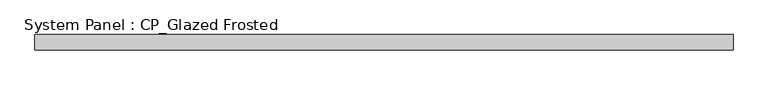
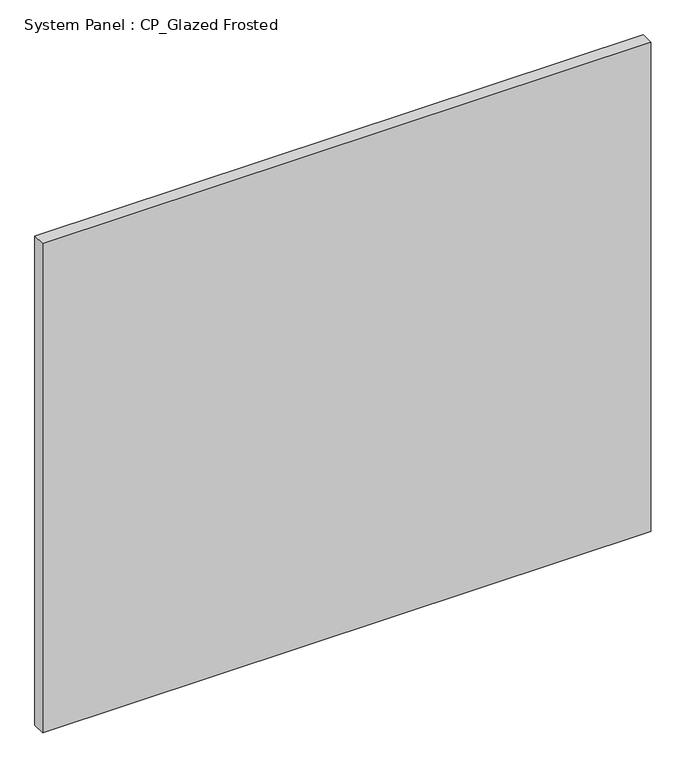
"""IFC4 building model written with IfcOpenShell, lengths in millimetres: plate geometry, System Panel : CP_Glazed Frosted."""

from ifc_helpers import new_model, si_unit, origin, origin_with_axes, place, context, project, spatial, polyline, outline, extrude, source, transform, mapped, element, save


def system_panel_cp_glazed_frosted_c9dce0ef(model_context):
    return source(origin(), model_context, "Body", "SweptSolid", [
        extrude(outline(polyline([(583.803125, 19.05), (-583.803125, 19.05), (-583.803125, 44.45), (583.803125, 44.45), (583.803125, 19.05)])), origin_with_axes(), (0.0, 0.0, 1.0), 992.98125),
    ])


if __name__ == "__main__":
    model = new_model("IFC4")
    model_context = context("Model", 3, world=origin())
    ifc_project = project(units=[si_unit("LENGTHUNIT", "METRE", prefix="MILLI")], contexts=[model_context])
    site = spatial("IfcSite", under=ifc_project)
    building = spatial("IfcBuilding", under=site)
    placement = place(None, origin())
    system_panel_cp_glazed_frosted_shape = system_panel_cp_glazed_frosted_c9dce0ef(model_context)
    element("IfcPlate", 1, ObjectType="System Panel : CP_Glazed Frosted", at=placement, inside=building, context=model_context, shape_type="MappedRepresentation", body=[
        mapped(system_panel_cp_glazed_frosted_shape, transform((0.0, 0.0, 0.0), x_axis=(1.0, 0.0, 0.0), y_axis=(0.0, 1.0, 0.0), z_axis=(0.0, 0.0, 1.0))),
    ])
    save(model, "model.ifc")
